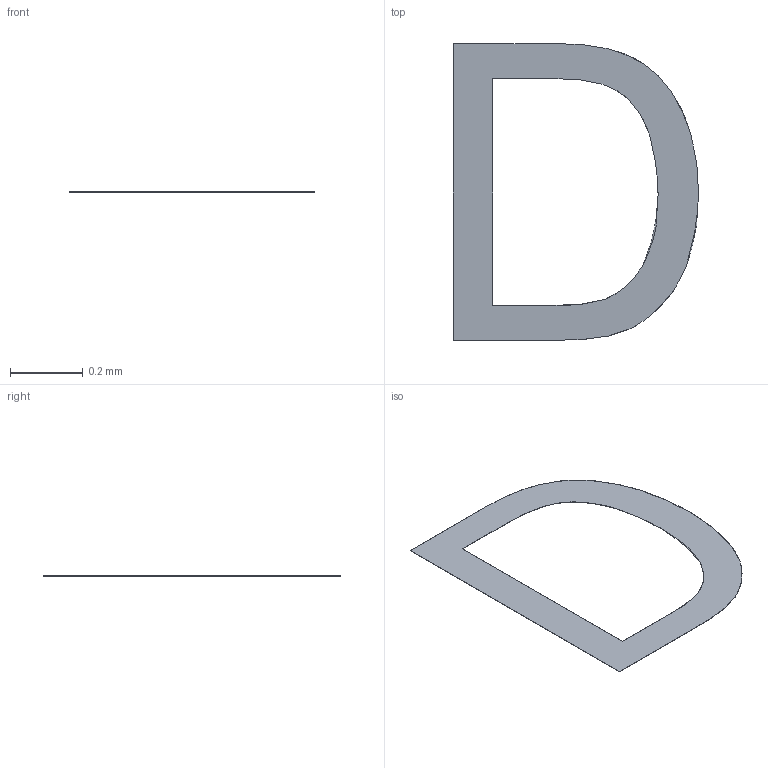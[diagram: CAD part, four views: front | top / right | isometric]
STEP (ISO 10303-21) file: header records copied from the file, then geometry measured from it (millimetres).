
FILE_DESCRIPTION(/* description */ ('STEP AP242 Edition 2','CAx-IF Rec.Pracs.---Representation and Presentation of Product Manufacturing Information (PMI)---4.0---2014-10-13','CAx-IF Rec.Pracs.---3D Tessellated Geometry---0.4---2014-09-14','2;1','CAx-IF Rec.Pracs.---User Defined Attributes---1.5---2016-08-15'),/* implementation_level */ '2;1');
FILE_NAME(/* name */ 'Drone Layout - Surface 348',/* time_stamp */ '2026-10-04T22:22:57Z',/* author */ (''),/* organization */ (''),/* preprocessor_version */ 'ST-DEVELOPER v20',/* originating_system */ 'ONSHAPE BY PTC INC, 1.221',/* authorisation */ ' ');
FILE_SCHEMA (('AP242_MANAGED_MODEL_BASED_3D_ENGINEERING_MIM_LF { 1 0 10303 442 3 1 4 }'));
Length unit declared in the file: metre
Products named in the file (1): VL53L0X:1__Body26
Bounding box: 0.68 x 0.82 x 0 mm (x, y, z)
Volume: 0 mm3; surface area: 0.5 mm2
Topology: 1 solids, 1 shells, 24 faces, 66 edges, 44 vertices
Faces by surface type: bspline 16, plane 8
Entity records: 920 total; most frequent: CARTESIAN_POINT 400, ORIENTED_EDGE 132, EDGE_CURVE 66, DIRECTION 52, VERTEX_POINT 44, LINE 34, VECTOR 34, B_SPLINE_CURVE_WITH_KNOTS 32
